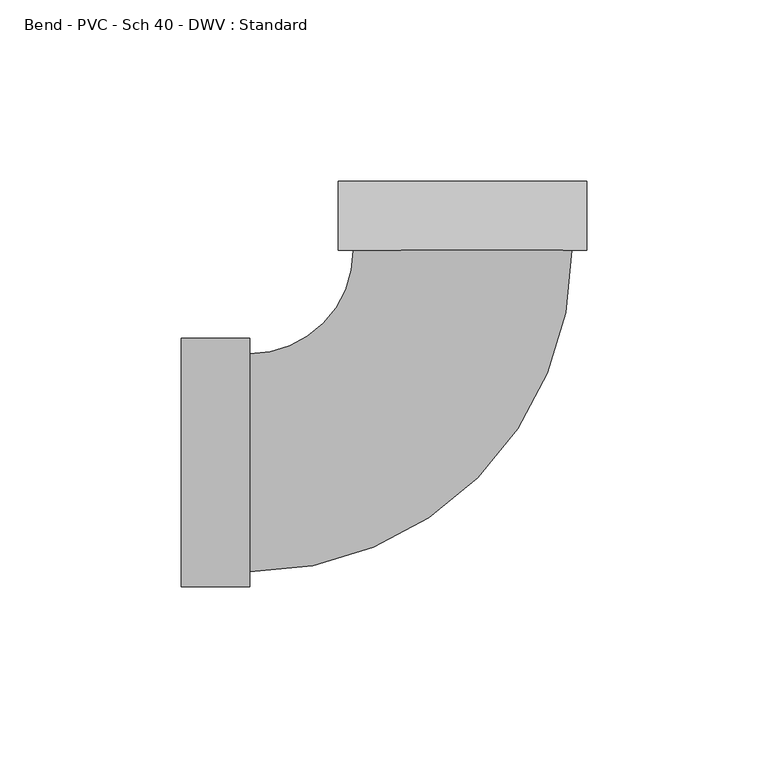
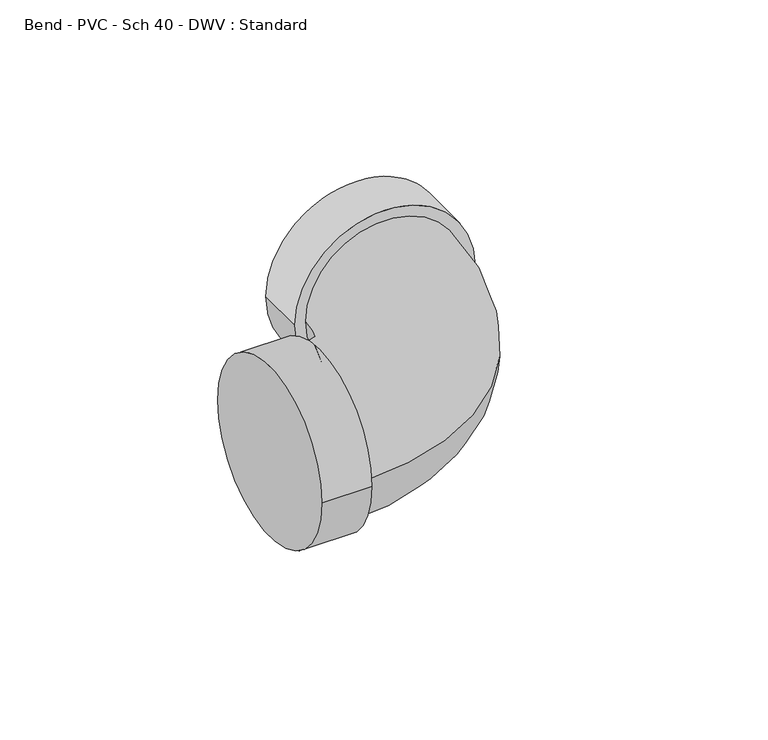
"""IFC4 building model written with IfcOpenShell, lengths in millimetres: pipe fitting geometry, Bend - PVC - Sch 40 - DWV : Standard."""

import ifcopenshell
import ifcopenshell.guid

model = None  # the IFC model being written
_history = None  # IfcOwnerHistory: only IFC2X3 demands one
_inside = {}  # id of a spatial element -> (the spatial element, [elements in it])
_under = {}  # id of a project, library or spatial element -> (it, [spatial elements below it])
_declared = {}  # id of a project -> (the project, [libraries it declares])
_typed = {}  # id of a type object -> (the type object, [elements of that type])
_made_of = {}  # id of a material, layer set ... -> (it, [elements and type objects made of it])


def new_model(schema):
    """Start an empty IFC model of exactly this schema.

    Asked for "IFC4X3", IfcOpenShell would pick the latest addendum, in which some entities
    have other attributes; the version numbers below select the first issue.
    IFC2X3 requires an IfcOwnerHistory on every rooted entity: one is made here for all.
    """
    global model, _history
    if schema == "IFC4X3":
        model = ifcopenshell.file(schema_version=(4, 3, 0, 0))
    else:
        model = ifcopenshell.file(schema=schema)
    _inside.clear()
    _under.clear()
    _declared.clear()
    _typed.clear()
    _made_of.clear()
    _history = None
    if model.schema == "IFC2X3":
        org = make("IfcOrganization", Name="unknown")
        user = make(
            "IfcPersonAndOrganization",
            ThePerson=make("IfcPerson", FamilyName="unknown"),
            TheOrganization=org,
        )
        app = make(
            "IfcApplication",
            ApplicationDeveloper=org,
            Version="unknown",
            ApplicationFullName="unknown",
            ApplicationIdentifier="unknown",
        )
        _history = make(
            "IfcOwnerHistory",
            OwningUser=user,
            OwningApplication=app,
            ChangeAction="ADDED",
            CreationDate=0,
        )
    return model


def make(cls, **values):
    """One entity of the class cls with the attributes given. An attribute that is None is left unset."""
    return model.create_entity(
        cls, **{name: value for name, value in values.items() if value is not None}
    )


def rooted(cls, **values):
    """An entity with a GlobalId (a new one), such as an element, a storey or a relation."""
    return make(cls, GlobalId=ifcopenshell.guid.new(), OwnerHistory=_history, **values)


def si_unit(unit_type, name, prefix=None):
    """IfcSIUnit, for example si_unit("LENGTHUNIT", "METRE", prefix="MILLI")."""
    return make("IfcSIUnit", UnitType=unit_type, Prefix=prefix, Name=name)


def assignment(units):
    """IfcUnitAssignment: the units of a project."""
    return None if units is None else make("IfcUnitAssignment", Units=units)


def point(xyz):
    """IfcCartesianPoint."""
    return None if xyz is None else make("IfcCartesianPoint", Coordinates=xyz)


def direction(xyz):
    """IfcDirection."""
    return None if xyz is None else make("IfcDirection", DirectionRatios=xyz)


def frame(location, z_axis=None, x_axis=None):
    """IfcAxis2Placement3D, a coordinate frame: its origin and axes. An axis left out is left unset."""
    return make(
        "IfcAxis2Placement3D",
        Location=point(location),
        Axis=direction(z_axis),
        RefDirection=direction(x_axis),
    )


def origin():
    """The frame at (0, 0, 0) with its axes left unset."""
    return frame((0.0, 0.0, 0.0))


def place(relative_to, where):
    """IfcLocalPlacement: puts the frame where relative to a parent placement (None: the world)."""
    return make(
        "IfcLocalPlacement", PlacementRelTo=relative_to, RelativePlacement=where
    )


def context(
    kind, dimensions, precision=None, world=None, true_north=None, identifier=None
):
    """IfcGeometricRepresentationContext, for example the 3D "Model" context."""
    return make(
        "IfcGeometricRepresentationContext",
        ContextIdentifier=identifier,
        ContextType=kind,
        CoordinateSpaceDimension=dimensions,
        Precision=precision,
        WorldCoordinateSystem=world,
        TrueNorth=true_north,
    )


def project(units=None, contexts=None):
    """IfcProject with its units and contexts."""
    return rooted(
        "IfcProject",
        Name="project",
        RepresentationContexts=contexts,
        UnitsInContext=assignment(units),
    )


def spatial(cls, under=None, at=None, **own):
    """A site, building, storey or space (cls), placed at a placement, below another one or the project."""
    s = rooted(cls, ObjectPlacement=at, **own)
    if under is not None:
        _under.setdefault(under.id(), (under, []))[1].append(s)
    return s


def circle_curve(where, radius):
    """IfcCircle in the frame where."""
    return make("IfcCircle", Position=where, Radius=radius)


def ellipse_curve(where, semi_axis1, semi_axis2):
    """IfcEllipse in the frame where."""
    return make(
        "IfcEllipse", Position=where, SemiAxis1=semi_axis1, SemiAxis2=semi_axis2
    )


def trimmed(basis, trim1, trim2, sense, master):
    """IfcTrimmedCurve: the piece of a basis curve between two trims."""
    return make(
        "IfcTrimmedCurve",
        BasisCurve=basis,
        Trim1=trim1,
        Trim2=trim2,
        SenseAgreement=sense,
        MasterRepresentation=master,
    )


def shape(context_of_items, identifier, shape_type, items):
    """IfcShapeRepresentation: the items that make up one representation, for example the "Body"."""
    return make(
        "IfcShapeRepresentation",
        ContextOfItems=context_of_items,
        RepresentationIdentifier=identifier,
        RepresentationType=shape_type,
        Items=items,
    )


def source(mapping_origin, context_of_items, identifier, shape_type, items):
    """IfcRepresentationMap: a shape defined once, which mapped items show again and again."""
    return make(
        "IfcRepresentationMap",
        MappingOrigin=mapping_origin,
        MappedRepresentation=shape(context_of_items, identifier, shape_type, items),
    )


def transform(
    local_origin,
    x_axis=None,
    y_axis=None,
    z_axis=None,
    scale=None,
    scale2=None,
    scale3=None,
    uniform=True,
):
    """IfcCartesianTransformationOperator3D, or its non-uniform kind. x_axis, y_axis, z_axis: its Axis1, 2, 3."""
    if uniform:
        return make(
            "IfcCartesianTransformationOperator3D",
            Axis1=direction(x_axis),
            Axis2=direction(y_axis),
            LocalOrigin=point(local_origin),
            Scale=scale,
            Axis3=direction(z_axis),
        )
    return make(
        "IfcCartesianTransformationOperator3DnonUniform",
        Axis1=direction(x_axis),
        Axis2=direction(y_axis),
        LocalOrigin=point(local_origin),
        Scale=scale,
        Axis3=direction(z_axis),
        Scale2=scale2,
        Scale3=scale3,
    )


def mapped(mapping_source, mapping_target):
    """IfcMappedItem: shows the shape of a source again, moved by a transform."""
    return make(
        "IfcMappedItem", MappingSource=mapping_source, MappingTarget=mapping_target
    )


def made_of(thing, what):
    """Note that an element or type object is made of a material, layer set ...; save() writes the relation."""
    if what is not None:
        _made_of.setdefault(what.id(), (what, []))[1].append(thing)
    return thing


def element(
    cls,
    number,
    at=None,
    inside=None,
    cuts=None,
    type_object=None,
    material=None,
    context=None,
    identifier="Body",
    shape_type=None,
    held_by="IfcProductDefinitionShape",
    body=None,
    shapes=None,
    **own,
):
    """One element of the class cls, such as IfcWall. Its Tag is "e" and its number.

    at: its placement. inside: the storey or other place that contains it. cuts: it is an
    opening in that element (IfcRelVoidsElement). A single representation is given by context,
    identifier, shape_type and body (its items); several are given by shapes. held_by: the class
    of the entity that holds the representations. save() writes the other relations.
    """
    e = rooted(cls, Tag="e%d" % number, ObjectPlacement=at, **own)
    if body is not None:
        shapes = [shape(context, identifier, shape_type, body)]
    if shapes is not None:
        e.Representation = make(held_by, Representations=shapes)
    if inside is not None:
        _inside.setdefault(inside.id(), (inside, []))[1].append(e)
    if cuts is not None:
        rooted(
            "IfcRelVoidsElement", RelatingBuildingElement=cuts, RelatedOpeningElement=e
        )
    if type_object is not None:
        _typed.setdefault(type_object.id(), (type_object, []))[1].append(e)
    return made_of(e, material)


def aggregate(whole, parts):
    """IfcRelAggregates: a whole, such as a stair, and the parts it consists of."""
    return rooted("IfcRelAggregates", RelatingObject=whole, RelatedObjects=parts)


def save(model, path):
    """Write the relations noted so far, then the file.

    IfcRelAggregates (storeys below a building ...), IfcRelContainedInSpatialStructure (elements
    in a storey), IfcRelDefinesByType, IfcRelAssociatesMaterial and IfcRelDeclares: one each for
    every whole, place, type object, material and project.
    """
    for whole, parts in _under.values():
        aggregate(whole, parts)
    for where, things in _inside.values():
        rooted(
            "IfcRelContainedInSpatialStructure",
            RelatedElements=things,
            RelatingStructure=where,
        )
    for kind, things in _typed.values():
        rooted("IfcRelDefinesByType", RelatedObjects=things, RelatingType=kind)
    for what, things in _made_of.values():
        rooted("IfcRelAssociatesMaterial", RelatedObjects=things, RelatingMaterial=what)
    for by, libraries in _declared.values():
        rooted("IfcRelDeclares", RelatingContext=by, RelatedDefinitions=libraries)
    model.write(path)


def plane_surface(at):
    """IfcPlane: the flat surface through the origin of the frame at, square to its z axis."""
    return make("IfcPlane", Position=at)


def cylinder_surface(at, radius):
    """IfcCylindricalSurface: all points at the distance radius from the z axis of the frame at."""
    return make("IfcCylindricalSurface", Position=at, Radius=radius)


def revolved_surface(curve, axis_point, axis_direction):
    """IfcSurfaceOfRevolution: the curve turned about the line through axis_point along axis_direction."""
    return make(
        "IfcSurfaceOfRevolution",
        SweptCurve=make("IfcArbitraryOpenProfileDef", ProfileType="CURVE", Curve=curve),
        AxisPosition=make("IfcAxis1Placement", Location=point(axis_point), Axis=direction(axis_direction)),
    )


def advanced_brep(points, edges, surfaces, faces):
    """IfcAdvancedBrep: a solid bounded by faces that lie on surfaces and meet in shared edges.

    An edge is (start, end): straight between two places in points (the first is 0);
    or (start, end, curve); or (start, end, curve, False) where it runs against its curve.
    A face is (place in surfaces, loops), or (place, loops, False) where it looks against
    its surface's normal. A loop lists edges by number (the first is 1), with a minus sign
    where the edge is run from its end to its start. The first loop is the outer one.
    """
    corners = [point(p) for p in points]
    vertices = [make("IfcVertexPoint", VertexGeometry=c) for c in corners]
    made = []
    for start, end, *more in edges:
        made.append(
            make(
                "IfcEdgeCurve",
                EdgeStart=vertices[start],
                EdgeEnd=vertices[end],
                EdgeGeometry=more[0] if more else make("IfcPolyline", Points=[corners[start], corners[end]]),
                SameSense=more[1] if len(more) > 1 else True,
            )
        )
    hull = []
    for where, loops, *sense in faces:
        bounds = []
        for j, loop in enumerate(loops):
            ring = [make("IfcOrientedEdge", EdgeElement=made[abs(k) - 1], Orientation=k > 0) for k in loop]
            bounds.append(
                make(
                    "IfcFaceOuterBound" if j == 0 else "IfcFaceBound",
                    Bound=make("IfcEdgeLoop", EdgeList=ring),
                    Orientation=True,
                )
            )
        hull.append(make("IfcAdvancedFace", Bounds=bounds, FaceSurface=surfaces[where], SameSense=sense[0] if sense else True))
    return make("IfcAdvancedBrep", Outer=make("IfcClosedShell", CfsFaces=hull))


def bend_pvc_sch_40_dwv_standard_96ae6f7c(model_context):
    return source(origin(), model_context, "Body", "AdvancedBrep", [
        advanced_brep(
        [(-77.8002, -34.3154, 0.0), (-77.8002, 34.3154, 0.0), (-58.7502, -34.3154, 0.0), (-58.7502, 34.3154, 0.0), (-58.7502, -30.1625, 0.0), (-58.7502, 30.1625, 0.0), (-30.1646223, 58.7491104, 0.0), (30.1603777, 58.7512895, 0.0), (34.3132777, 58.7514396, 0.0), (-34.3175223, 58.7489604, 0.0), (34.3125895, 77.8014395, 0.0), (-34.3182104, 77.7989603, 0.0)],
        [
            (0, 1, circle_curve(frame((-77.8002, 0.0, 0.0), z_axis=(-1.0, 0.0, 0.0), x_axis=(0.0, 1.0, 0.0)), 34.3154)),
            (1, 0, circle_curve(frame((-77.8002, 0.0, 0.0), z_axis=(-1.0, 0.0, 0.0), x_axis=(0.0, 1.0, 0.0)), 34.3154)),
            (2, 3, circle_curve(frame((-58.7502, 0.0, 0.0), z_axis=(1.0, 0.0, 0.0), x_axis=(0.0, 1.0, 0.0)), 34.3154)),
            (3, 2, circle_curve(frame((-58.7502, 0.0, 0.0), z_axis=(1.0, 0.0, 0.0), x_axis=(0.0, 1.0, 0.0)), 34.3154)),
            (4, 5, circle_curve(frame((-58.7502, 0.0, 0.0), z_axis=(-1.0, 0.0, 0.0), x_axis=(0.0, 1.0, 0.0)), 30.1625)),
            (5, 4, circle_curve(frame((-58.7502, 0.0, 0.0), z_axis=(-1.0, 0.0, 0.0), x_axis=(0.0, 1.0, 0.0)), 30.1625)),
            (0, 2),
            (3, 1),
            (6, 5, circle_curve(frame((-58.7502, 58.7480778, 0.0), z_axis=(0.0, 0.0, -1.0), x_axis=(0.0, -1.0, 0.0)), 28.5855778)),
            (4, 7, circle_curve(frame((-58.7502, 58.7480778, 0.0), z_axis=(0.0, 0.0, 1.0), x_axis=(0.0, -1.0, 0.0)), 88.9105778)),
            (7, 6, circle_curve(frame((-0.0021223, 58.7502, 0.0), z_axis=(3.612370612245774e-05, -0.9999999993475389, 0.0), x_axis=(-0.9999999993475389, -3.612370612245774e-05, 0.0)), 30.1625)),
            (6, 7, circle_curve(frame((-0.0021223, 58.7502, 0.0), z_axis=(3.612370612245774e-05, -0.9999999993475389, 0.0), x_axis=(-0.9999999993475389, -3.612370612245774e-05, 0.0)), 30.1625)),
            (8, 9, circle_curve(frame((-0.0021223, 58.7502, 0.0), z_axis=(3.6123706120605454e-05, -0.9999999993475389, 0.0), x_axis=(-0.9999999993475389, -3.6123706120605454e-05, 0.0)), 34.3154)),
            (9, 8, circle_curve(frame((-0.0021223, 58.7502, 0.0), z_axis=(3.6123706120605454e-05, -0.9999999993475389, 0.0), x_axis=(-0.9999999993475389, -3.6123706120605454e-05, 0.0)), 34.3154)),
            (10, 11, circle_curve(frame((-0.0028104, 77.8001999, 0.0), z_axis=(-3.6123706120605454e-05, 0.9999999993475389, 0.0), x_axis=(-0.9999999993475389, -3.6123706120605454e-05, 0.0)), 34.3154)),
            (11, 10, circle_curve(frame((-0.0028104, 77.8001999, 0.0), z_axis=(-3.6123706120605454e-05, 0.9999999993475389, 0.0), x_axis=(-0.9999999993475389, -3.6123706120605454e-05, 0.0)), 34.3154)),
            (8, 10),
            (11, 9),
        ],
        [
            plane_surface(frame((-77.8002, 0.0, 0.0), z_axis=(-1.0, 0.0, 0.0), x_axis=(0.0, 0.0, 1.0))),
            plane_surface(frame((-58.7502, 0.0, 0.0), z_axis=(1.0, 0.0, 0.0), x_axis=(0.0, 0.0, 1.0))),
            cylinder_surface(frame((-77.8002, 0.0, 0.0), z_axis=(-1.0, 0.0, 0.0), x_axis=(0.0, 1.0, 0.0)), 34.3154),
            revolved_surface(trimmed(ellipse_curve(frame((-58.7502, 0.0, 0.0), z_axis=(-1.0, 0.0, 0.0), x_axis=(0.0, 1.0, 0.0)), 30.1625, 30.1625), [point((-58.7502, -30.1625, 0.0))], [point((-58.7502, 30.1625, 0.0))], True, "CARTESIAN"), (-58.7502, 58.7480778, 0.0), (0.0, 0.0, 1.0)),
            revolved_surface(trimmed(ellipse_curve(frame((-58.7502, 0.0, 0.0), z_axis=(-1.0, 0.0, 0.0), x_axis=(0.0, 1.0, 0.0)), 30.1625, 30.1625), [point((-58.7502, 30.1625, 0.0))], [point((-58.7502, -30.1625, 0.0))], True, "CARTESIAN"), (-58.7502, 58.7480778, 0.0), (0.0, 0.0, 1.0)),
            plane_surface(frame((-0.0021223, 58.7502, 0.0), z_axis=(3.6123706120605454e-05, -0.9999999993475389, 0.0), x_axis=(0.0, 0.0, 1.0))),
            plane_surface(frame((-0.0028104, 77.8001999, 0.0), z_axis=(-3.6123706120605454e-05, 0.9999999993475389, 0.0), x_axis=(0.0, 0.0, 1.0))),
            cylinder_surface(frame((-0.0021223, 58.7502, 0.0), z_axis=(3.6123706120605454e-05, -0.9999999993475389, 0.0), x_axis=(-0.9999999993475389, -3.6123706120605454e-05, 0.0)), 34.3154),
        ],
        [
            (0, [[1, 2]]),
            (1, [[3, 4], [5, 6]]),
            (2, [[-1, 7, -4, 8]]),
            (2, [[-2, -8, -3, -7]]),
            (3, [[9, -5, 10, 11]]),
            (4, [[-9, 12, -10, -6]]),
            (5, [[13, 14], [-11, -12]]),
            (6, [[15, 16]]),
            (7, [[-13, 17, -16, 18]]),
            (7, [[-14, -18, -15, -17]]),
        ],
    ),
    ])


if __name__ == "__main__":
    model = new_model("IFC4")
    model_context = context("Model", 3, world=origin())
    ifc_project = project(units=[si_unit("LENGTHUNIT", "METRE", prefix="MILLI")], contexts=[model_context])
    site = spatial("IfcSite", under=ifc_project)
    building = spatial("IfcBuilding", under=site)
    placement = place(None, origin())
    bend_pvc_sch_40_dwv_standard_shape = bend_pvc_sch_40_dwv_standard_96ae6f7c(model_context)
    element("IfcPipeFitting", 1, ObjectType="Bend - PVC - Sch 40 - DWV : Standard", at=placement, inside=building, context=model_context, shape_type="MappedRepresentation", body=[
        mapped(bend_pvc_sch_40_dwv_standard_shape, transform((0.0, 0.0, 0.0), x_axis=(1.0, 0.0, 0.0), y_axis=(0.0, 1.0, 0.0), z_axis=(0.0, 0.0, 1.0))),
    ])
    save(model, "model.ifc")
